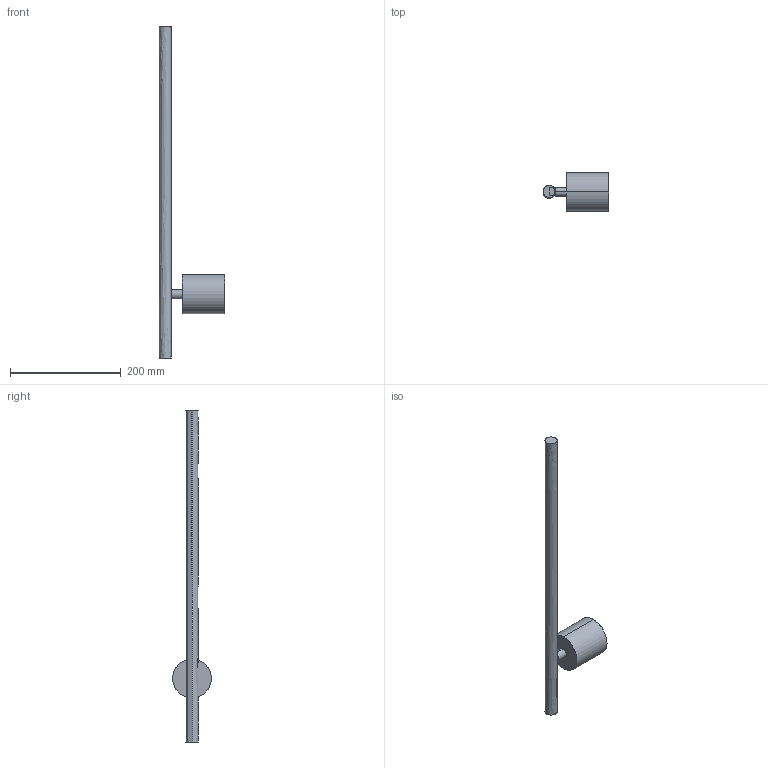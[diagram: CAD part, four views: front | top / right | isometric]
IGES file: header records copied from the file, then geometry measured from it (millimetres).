
Start section: SolidWorks IGES file using analytic representation for surfaces
Global section: file name: C:\Users\Agus\Desktop\incorporar\A1273\A1273.IGS; native system: SolidWorks 2018; preprocessor: SolidWorks 2018; author: Agus; date: 200312.112409; units: millimetre
Bounding box: 119 x 70 x 600 mm (x, y, z)
Surface area: 112976.8 mm2 (no closed solid volume)
Topology: 0 solids, 0 shells, 33 faces, 595 edges, 595 vertices
Faces by surface type: bspline 21, revolution 12
